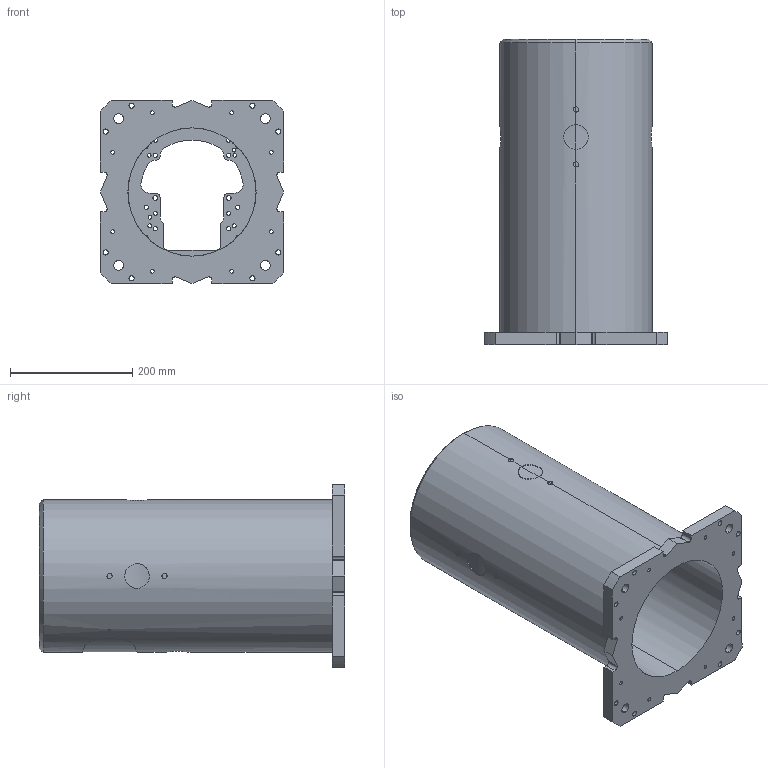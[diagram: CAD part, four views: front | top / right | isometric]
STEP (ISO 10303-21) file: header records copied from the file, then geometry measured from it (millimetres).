
FILE_DESCRIPTION (( 'STEP AP214' ), '1' );
FILE_NAME ('A-500.STEP', '2025-09-19T11:15:01', ( '' ), ( '' ), 'SwSTEP 2.0', 'SolidWorks 2022', '' );
FILE_SCHEMA (( 'AUTOMOTIVE_DESIGN' ));
Length unit declared in the file: millimetre
Products named in the file (1): A-500
Bounding box: 300 x 500 x 300 mm (x, y, z)
Volume: 8176447.9 mm3; surface area: 879595.4 mm2
Topology: 1 solids, 1 shells, 231 faces, 663 edges, 436 vertices
Faces by surface type: cylinder 170, plane 43, bspline 16, cone 2
Entity records: 13360 total; most frequent: CARTESIAN_POINT 6245, ORIENTED_EDGE 1326, DIRECTION 1285, EDGE_CURVE 663, AXIS2_PLACEMENT_3D 514, VERTEX_POINT 436, EDGE_LOOP 323, CIRCLE 298
